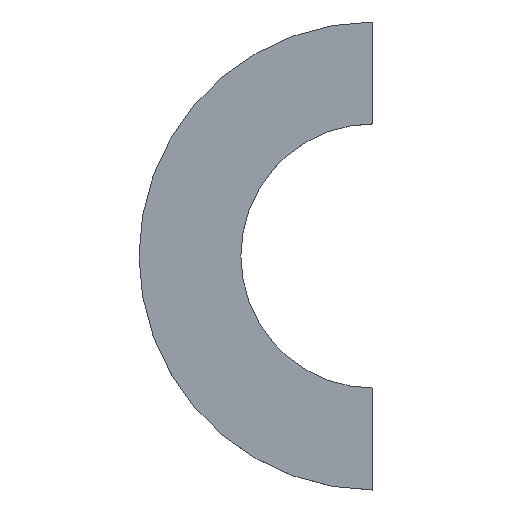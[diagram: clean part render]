
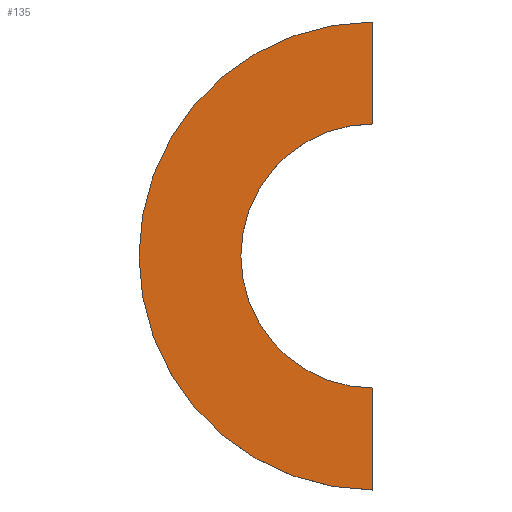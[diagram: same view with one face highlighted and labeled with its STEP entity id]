
A CAD part, top view. The second image highlights one B-rep face of the part: STEP entity #135.
In plain terms, the highlighted planar face has unit normal (0, 0, 1).
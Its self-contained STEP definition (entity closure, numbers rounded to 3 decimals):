
#21 = EDGE_CURVE('',#22,#24,#26,.T.);
#22 = VERTEX_POINT('',#23);
#23 = CARTESIAN_POINT('',(0.,4.8,6.45));
#24 = VERTEX_POINT('',#25);
#25 = CARTESIAN_POINT('',(0.,-4.8,6.45));
#26 = SURFACE_CURVE('',#27,(#32,#44),.PCURVE_S1.);
#27 = CIRCLE('',#28,4.8);
#28 = AXIS2_PLACEMENT_3D('',#29,#30,#31);
#29 = CARTESIAN_POINT('',(0.,0.,6.45));
#30 = DIRECTION('',(0.,0.,1.));
#31 = DIRECTION('',(1.,0.,-0.));
#32 = PCURVE('',#33,#38);
#33 = CYLINDRICAL_SURFACE('',#34,4.8);
#34 = AXIS2_PLACEMENT_3D('',#35,#36,#37);
#35 = CARTESIAN_POINT('',(0.,0.,6.));
#36 = DIRECTION('',(0.,0.,1.));
#37 = DIRECTION('',(1.,0.,-0.));
#38 = DEFINITIONAL_REPRESENTATION('',(#39),#43);
#39 = LINE('',#40,#41);
#40 = CARTESIAN_POINT('',(0.,0.45));
#41 = VECTOR('',#42,1.);
#42 = DIRECTION('',(1.,0.));
#43 = ( GEOMETRIC_REPRESENTATION_CONTEXT(2) 
PARAMETRIC_REPRESENTATION_CONTEXT() REPRESENTATION_CONTEXT('2D SPACE',''
  ) );
#44 = PCURVE('',#45,#50);
#45 = PLANE('',#46);
#46 = AXIS2_PLACEMENT_3D('',#47,#48,#49);
#47 = CARTESIAN_POINT('',(0.,0.,6.45));
#48 = DIRECTION('',(0.,0.,1.));
#49 = DIRECTION('',(1.,0.,-0.));
#50 = DEFINITIONAL_REPRESENTATION('',(#51),#55);
#51 = CIRCLE('',#52,4.8);
#52 = AXIS2_PLACEMENT_2D('',#53,#54);
#53 = CARTESIAN_POINT('',(0.,0.));
#54 = DIRECTION('',(1.,0.));
#55 = ( GEOMETRIC_REPRESENTATION_CONTEXT(2) 
PARAMETRIC_REPRESENTATION_CONTEXT() REPRESENTATION_CONTEXT('2D SPACE',''
  ) );
#72 = PLANE('',#73);
#73 = AXIS2_PLACEMENT_3D('',#74,#75,#76);
#74 = CARTESIAN_POINT('',(0.,-50.,-50.));
#75 = DIRECTION('',(1.,0.,0.));
#76 = DIRECTION('',(0.,0.,1.));
#125 = PLANE('',#126);
#126 = AXIS2_PLACEMENT_3D('',#127,#128,#129);
#127 = CARTESIAN_POINT('',(0.,-50.,-50.));
#128 = DIRECTION('',(1.,0.,0.));
#129 = DIRECTION('',(0.,0.,1.));
#135 = ADVANCED_FACE('',(#136),#45,.T.);
#136 = FACE_BOUND('',#137,.T.);
#137 = EDGE_LOOP('',(#138,#159,#160,#181));
#138 = ORIENTED_EDGE('',*,*,#139,.T.);
#139 = EDGE_CURVE('',#140,#22,#142,.T.);
#140 = VERTEX_POINT('',#141);
#141 = CARTESIAN_POINT('',(0.,2.71,6.45));
#142 = SURFACE_CURVE('',#143,(#147,#153),.PCURVE_S1.);
#143 = LINE('',#144,#145);
#144 = CARTESIAN_POINT('',(0.,-25.,6.45));
#145 = VECTOR('',#146,1.);
#146 = DIRECTION('',(0.,1.,0.));
#147 = PCURVE('',#45,#148);
#148 = DEFINITIONAL_REPRESENTATION('',(#149),#152);
#149 = B_SPLINE_CURVE_WITH_KNOTS('',1,(#150,#151),.UNSPECIFIED.,.F.,.F.,
  (2,2),(20.2,29.8),.PIECEWISE_BEZIER_KNOTS.);
#150 = CARTESIAN_POINT('',(0.,-4.8));
#151 = CARTESIAN_POINT('',(0.,4.8));
#152 = ( GEOMETRIC_REPRESENTATION_CONTEXT(2) 
PARAMETRIC_REPRESENTATION_CONTEXT() REPRESENTATION_CONTEXT('2D SPACE',''
  ) );
#153 = PCURVE('',#72,#154);
#154 = DEFINITIONAL_REPRESENTATION('',(#155),#158);
#155 = B_SPLINE_CURVE_WITH_KNOTS('',1,(#156,#157),.UNSPECIFIED.,.F.,.F.,
  (2,2),(20.2,29.8),.PIECEWISE_BEZIER_KNOTS.);
#156 = CARTESIAN_POINT('',(56.45,-45.2));
#157 = CARTESIAN_POINT('',(56.45,-54.8));
#158 = ( GEOMETRIC_REPRESENTATION_CONTEXT(2) 
PARAMETRIC_REPRESENTATION_CONTEXT() REPRESENTATION_CONTEXT('2D SPACE',''
  ) );
#159 = ORIENTED_EDGE('',*,*,#21,.T.);
#160 = ORIENTED_EDGE('',*,*,#161,.T.);
#161 = EDGE_CURVE('',#24,#162,#164,.T.);
#162 = VERTEX_POINT('',#163);
#163 = CARTESIAN_POINT('',(0.,-2.71,6.45));
#164 = SURFACE_CURVE('',#165,(#169,#175),.PCURVE_S1.);
#165 = LINE('',#166,#167);
#166 = CARTESIAN_POINT('',(0.,-25.,6.45));
#167 = VECTOR('',#168,1.);
#168 = DIRECTION('',(0.,1.,0.));
#169 = PCURVE('',#45,#170);
#170 = DEFINITIONAL_REPRESENTATION('',(#171),#174);
#171 = B_SPLINE_CURVE_WITH_KNOTS('',1,(#172,#173),.UNSPECIFIED.,.F.,.F.,
  (2,2),(20.2,29.8),.PIECEWISE_BEZIER_KNOTS.);
#172 = CARTESIAN_POINT('',(0.,-4.8));
#173 = CARTESIAN_POINT('',(0.,4.8));
#174 = ( GEOMETRIC_REPRESENTATION_CONTEXT(2) 
PARAMETRIC_REPRESENTATION_CONTEXT() REPRESENTATION_CONTEXT('2D SPACE',''
  ) );
#175 = PCURVE('',#125,#176);
#176 = DEFINITIONAL_REPRESENTATION('',(#177),#180);
#177 = B_SPLINE_CURVE_WITH_KNOTS('',1,(#178,#179),.UNSPECIFIED.,.F.,.F.,
  (2,2),(20.2,29.8),.PIECEWISE_BEZIER_KNOTS.);
#178 = CARTESIAN_POINT('',(56.45,-45.2));
#179 = CARTESIAN_POINT('',(56.45,-54.8));
#180 = ( GEOMETRIC_REPRESENTATION_CONTEXT(2) 
PARAMETRIC_REPRESENTATION_CONTEXT() REPRESENTATION_CONTEXT('2D SPACE',''
  ) );
#181 = ORIENTED_EDGE('',*,*,#182,.F.);
#182 = EDGE_CURVE('',#140,#162,#183,.T.);
#183 = SURFACE_CURVE('',#184,(#189,#196),.PCURVE_S1.);
#184 = CIRCLE('',#185,2.71);
#185 = AXIS2_PLACEMENT_3D('',#186,#187,#188);
#186 = CARTESIAN_POINT('',(0.,0.,6.45));
#187 = DIRECTION('',(0.,0.,1.));
#188 = DIRECTION('',(1.,0.,-0.));
#189 = PCURVE('',#45,#190);
#190 = DEFINITIONAL_REPRESENTATION('',(#191),#195);
#191 = CIRCLE('',#192,2.71);
#192 = AXIS2_PLACEMENT_2D('',#193,#194);
#193 = CARTESIAN_POINT('',(0.,0.));
#194 = DIRECTION('',(1.,0.));
#195 = ( GEOMETRIC_REPRESENTATION_CONTEXT(2) 
PARAMETRIC_REPRESENTATION_CONTEXT() REPRESENTATION_CONTEXT('2D SPACE',''
  ) );
#196 = PCURVE('',#197,#202);
#197 = CYLINDRICAL_SURFACE('',#198,2.71);
#198 = AXIS2_PLACEMENT_3D('',#199,#200,#201);
#199 = CARTESIAN_POINT('',(0.,0.,5.99));
#200 = DIRECTION('',(0.,0.,1.));
#201 = DIRECTION('',(1.,0.,-0.));
#202 = DEFINITIONAL_REPRESENTATION('',(#203),#207);
#203 = LINE('',#204,#205);
#204 = CARTESIAN_POINT('',(0.,0.46));
#205 = VECTOR('',#206,1.);
#206 = DIRECTION('',(1.,0.));
#207 = ( GEOMETRIC_REPRESENTATION_CONTEXT(2) 
PARAMETRIC_REPRESENTATION_CONTEXT() REPRESENTATION_CONTEXT('2D SPACE',''
  ) );
